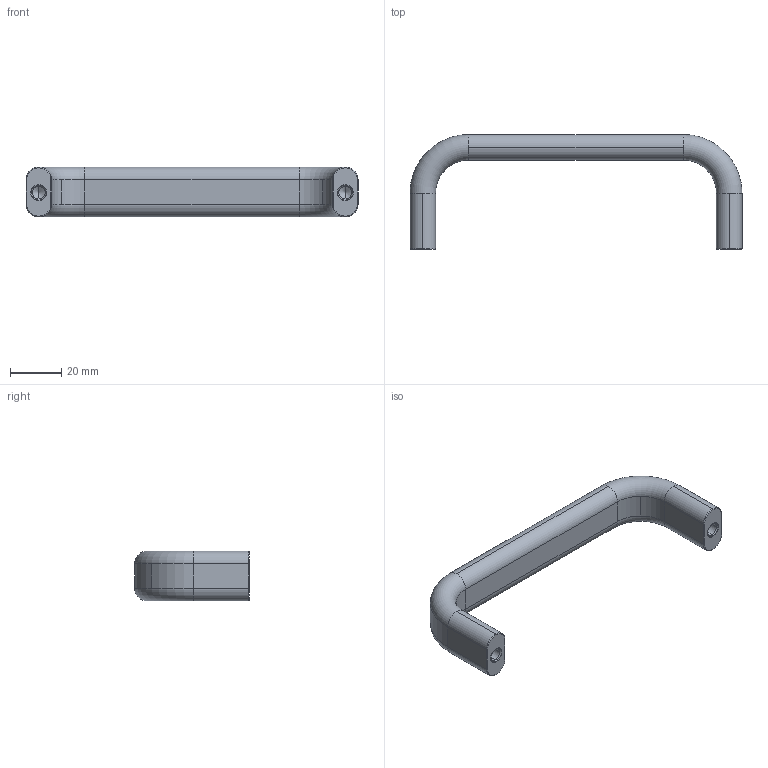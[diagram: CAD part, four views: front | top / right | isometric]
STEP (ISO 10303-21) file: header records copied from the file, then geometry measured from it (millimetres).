
FILE_DESCRIPTION((''),'2;1');
FILE_NAME('c:\wix\Knobs\7892\7892.W112.stp','2003-04-04T16:42:07',('joanc'),(''),'Autodesk Inventor (tm) 5.3','Autodesk Inventor (tm) 5.3','');
FILE_SCHEMA(('CONFIG_CONTROL_DESIGN'));
Length unit declared in the file: millimetre
Products named in the file (1): 7892.W112
Bounding box: 130 x 45 x 19.5 mm (x, y, z)
Volume: 31333.1 mm3; surface area: 10169.8 mm2
Topology: 1 solids, 1 shells, 68 faces, 154 edges, 86 vertices
Faces by surface type: cylinder 32, torus 16, cone 12, plane 8
Entity records: 1965 total; most frequent: DIRECTION 380, CARTESIAN_POINT 305, ORIENTED_EDGE 300, AXIS2_PLACEMENT_3D 161, EDGE_CURVE 150, CIRCLE 92, VERTEX_POINT 86, EDGE_LOOP 70
